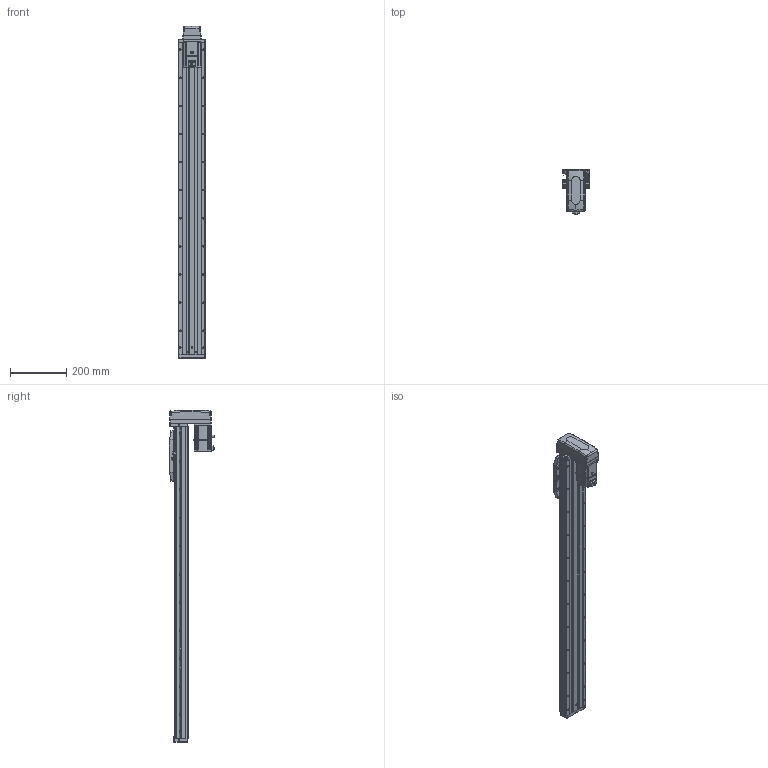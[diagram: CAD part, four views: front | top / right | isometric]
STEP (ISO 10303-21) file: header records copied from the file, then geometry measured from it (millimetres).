
FILE_DESCRIPTION (( 'STEP AP203' ), '1' );
FILE_NAME ('CTHA100-900-BM-M20-C4L.step', '2022-07-06T09:05:48', ( '微软用户' ), ( '微软中国' ), 'SwSTEP 2.0', 'SolidWorks 2020', '' );
FILE_SCHEMA (( 'CONFIG_CONTROL_DESIGN' ));
Length unit declared in the file: millimetre
Products named in the file (19): GBT77-2000 M3×3; CTHA86-030; KTHA100-004; GBT 70.1-M3℅6; GBT 70.3-M3℅6; KTHA100-005; GBT70.1 M5℅16; CTHA86-015-1_CTHA86-015-2; GB¨uT 70.2-M3¡Á5_M3¡Á6; CTHA60-016; CTHA86-033; EE_SX911P_R; _X2_4E0983F1_X0_200W_1; CTHA100-900-BM-M20-C4L; CTHA60-017; CTHA100-002; CTHA60-021; CTHA100-031; KTHA100-001_1110
Assembly tree (64 placements, depth 2):
  CTHA100-900-BM-M20-C4L
    KTHA100-001_1110
    KTHA100-004
    KTHA100-005
    GB¨uT 70.2-M3¡Á5_M3¡Á6  x10
    EE_SX911P_R  x3
    CTHA60-017  x3
    CTHA60-021  x2
    GBT77-2000 M3×3  x6
    GBT 70.1-M3℅6  x10
    GBT70.1 M5℅16  x14
    CTHA60-016  x2
    _X2_4E0983F1_X0_200W_1
    CTHA100-002
    CTHA100-031
    CTHA86-030  x2
    GBT 70.3-M3℅6  x4
    CTHA86-015-1_CTHA86-015-2
    CTHA86-033
Bounding box: 98.82 x 163.2 x 1181 mm (x, y, z)
Volume: 4747044.2 mm3; surface area: 788363.2 mm2
Topology: 66 solids, 66 shells, 2749 faces, 6639 edges, 4120 vertices
Faces by surface type: plane 1440, cylinder 725, cone 361, torus 124, bspline 75, sphere 24
Entity records: 48576 total; most frequent: CARTESIAN_POINT 9483, DIRECTION 7534, ORIENTED_EDGE 7394, EDGE_CURVE 3697, AXIS2_PLACEMENT_3D 2543, VECTOR 2448, LINE 2448, VERTEX_POINT 2340
